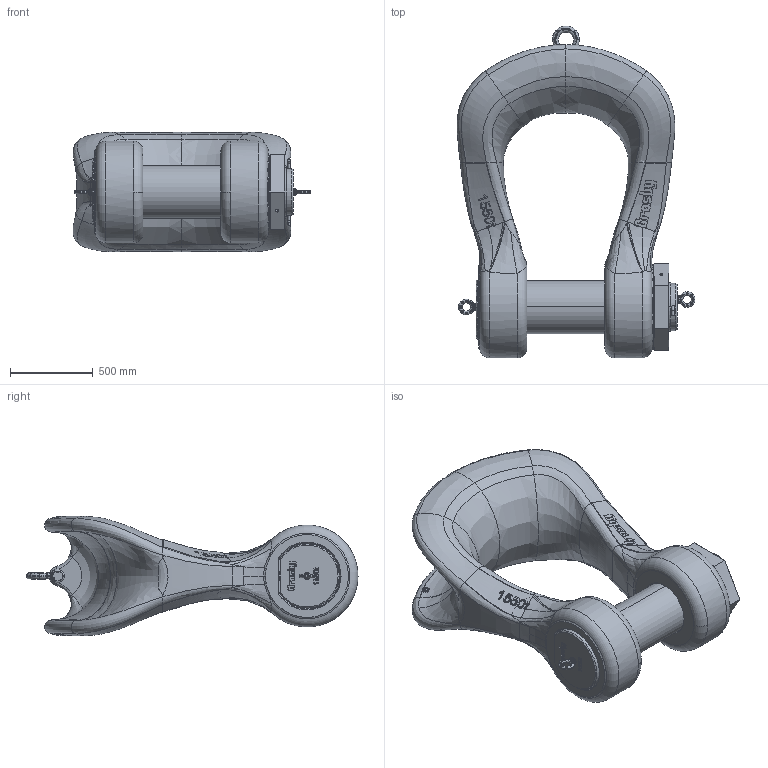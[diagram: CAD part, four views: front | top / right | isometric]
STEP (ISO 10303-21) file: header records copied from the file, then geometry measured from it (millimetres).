
FILE_DESCRIPTION((''),'2;1');
FILE_NAME('1021399_ASM','2024-09-04T11:47:51',('justin.lewis'),('The Crosby Group LLC'),'CREO PARAMETRIC BY PTC INC, 2021304','CREO PARAMETRIC BY PTC INC, 2021304','');
FILE_SCHEMA(('CONFIG_CONTROL_DESIGN','GEOMETRIC_VALIDATION_PROPERTIES_MIM'));
Length unit declared in the file: millimetre
Products named in the file (11): 0829-001550-D000-11; 0829-011550-D000-11; 1046029; 3701541; 1517075; 1800090; 88348; 40405; 1019622_ASM; 3707985; 1021399_ASM
Assembly tree (11 placements, depth 3):
  1021399_ASM
    0829-001550-D000-11
    0829-011550-D000-11
    1046029  x2
    3701541
    1019622_ASM
      1517075
      1800090
      88348
      40405
    3707985
Bounding box: 1435.62 x 2003.28 x 719.97 mm (x, y, z)
Volume: 484247789.1 mm3; surface area: 9449695.2 mm2
Topology: 10 solids, 21 shells, 2536 faces, 10005 edges, 8164 vertices
Faces by surface type: plane 935, extrusion 929, bspline 331, torus 156, cone 100, cylinder 85
Entity records: 253773 total; most frequent: CARTESIAN_POINT 158815, ORIENTED_EDGE 11163, PRESENTATION_STYLE_ASSIGNMENT 10892, STYLED_ITEM 10892, CURVE_STYLE 8806, DIRECTION 7015, EDGE_CURVE 5605, B_SPLINE_CURVE_WITH_KNOTS 5156
